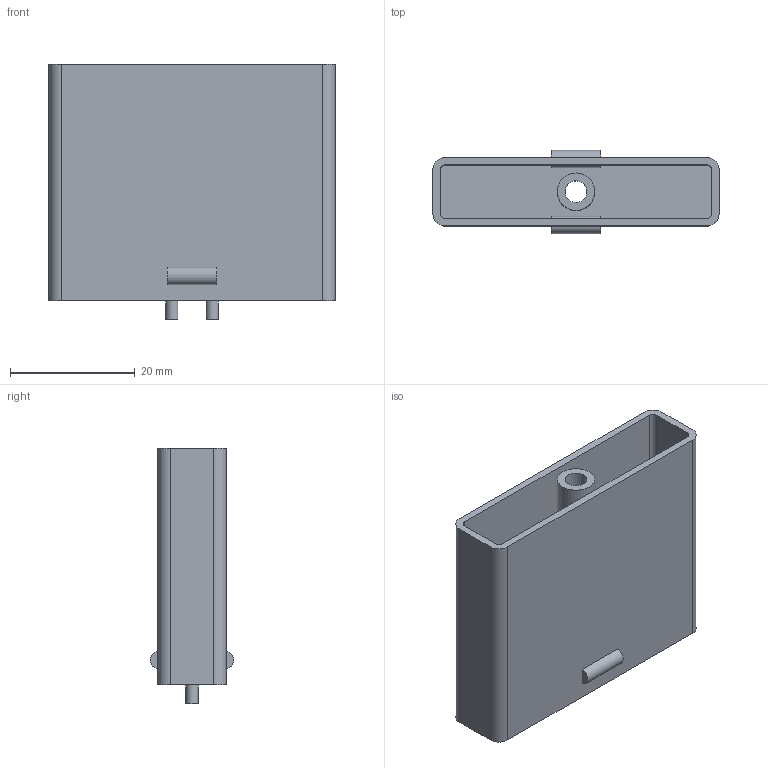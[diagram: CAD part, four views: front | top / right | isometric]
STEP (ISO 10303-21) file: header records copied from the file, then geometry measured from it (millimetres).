
FILE_DESCRIPTION(('Open CASCADE Model'),'2;1');
FILE_NAME('Open CASCADE Shape Model','2026-07-19T18:50:27',('Author'),( 'Open CASCADE'),'Open CASCADE STEP processor 7.9','Open CASCADE 7.9' ,'Unknown');
FILE_SCHEMA(('AUTOMOTIVE_DESIGN { 1 0 10303 214 1 1 1 1 }'));
Length unit declared in the file: millimetre
Products named in the file (1): Open CASCADE STEP translator 7.9 2
Bounding box: 46 x 13.39 x 41 mm (x, y, z)
Volume: 6685 mm3; surface area: 9943.8 mm2
Topology: 1 solids, 1 shells, 38 faces, 84 edges, 56 vertices
Faces by surface type: plane 22, cylinder 16
Full cylindrical faces by diameter (mm): 2 x2, 3.5 x1, 6 x1
Entity records: 2150 total; most frequent: CARTESIAN_POINT 435, DIRECTION 314, ORIENTED_EDGE 168, PCURVE 168, DEFINITIONAL_REPRESENTATION 168, LINE 148, VECTOR 148, EDGE_CURVE 84
